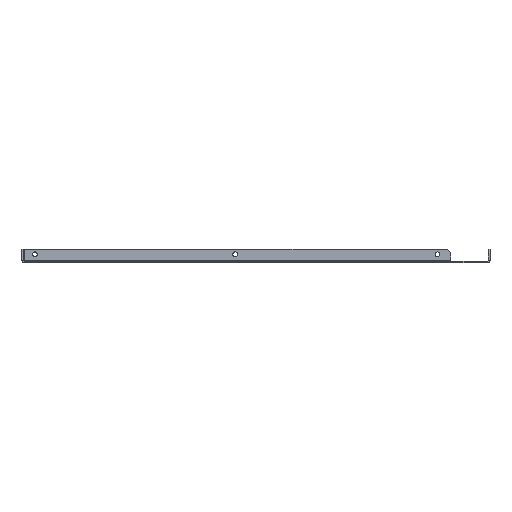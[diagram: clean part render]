
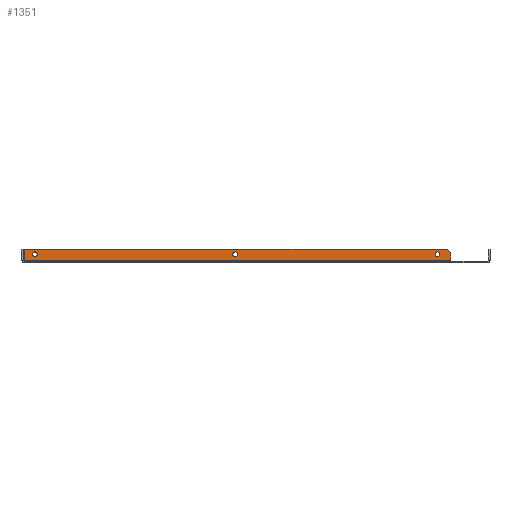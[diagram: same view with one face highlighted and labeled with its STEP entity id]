
A CAD part, left-side view. The second image highlights one B-rep face of the part: STEP entity #1351.
In plain terms, the highlighted planar face has unit normal (-1, 0, 0).
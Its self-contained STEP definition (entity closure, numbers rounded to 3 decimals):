
#306=CARTESIAN_POINT(' ',(-234.5,196.75,3.9));
#307=VERTEX_POINT(' ',#306);
#321=CARTESIAN_POINT(' ',(-234.5,196.75,6.));
#326=DIRECTION(' ',(-1.,0.,0.));
#331=DIRECTION(' ',(0.,0.,-1.));
#336=AXIS2_PLACEMENT_3D(' ',#321,#326,#331);
#341=CIRCLE('',#336,2.1);
#346=CARTESIAN_POINT(' ',(-234.5,196.75,8.1));
#347=VERTEX_POINT(' ',#346);
#351=EDGE_CURVE(' ',#307,#347,#341,.T.);
#891=CARTESIAN_POINT(' ',(-234.5,196.75,6.));
#896=DIRECTION(' ',(-1.,-0.,0.));
#901=DIRECTION(' ',(0.,0.,1.));
#906=AXIS2_PLACEMENT_3D(' ',#891,#896,#901);
#911=CIRCLE('',#906,2.1);
#916=EDGE_CURVE(' ',#347,#307,#911,.T.);
#941=DIRECTION(' ',(-1.,-0.,0.));
#946=CARTESIAN_POINT(' ',(-234.5,-173.25,10.5));
#951=DIRECTION(' ',(-0.,1.,0.));
#956=AXIS2_PLACEMENT_3D(' ',#946,#941,#951);
#961=PLANE('NONE',#956);
#966=CARTESIAN_POINT(' ',(-234.5,-173.25,7.5));
#971=DIRECTION(' ',(0.,0.,-1.));
#976=VECTOR(' ',#971,1.);
#981=LINE('',#966,#976);
#986=CARTESIAN_POINT(' ',(-234.5,-173.25,7.5));
#987=VERTEX_POINT(' ',#986);
#991=CARTESIAN_POINT(' ',(-234.5,-173.25,0.6));
#992=VERTEX_POINT(' ',#991);
#996=EDGE_CURVE(' ',#987,#992,#981,.T.);
#1001=ORIENTED_EDGE(' ',*,*,#996,.F.);
#1006=CARTESIAN_POINT(' ',(-234.5,-173.25,7.5));
#1011=DIRECTION(' ',(0.,0.707,0.707));
#1016=VECTOR(' ',#1011,1.);
#1021=LINE('',#1006,#1016);
#1026=CARTESIAN_POINT(' ',(-234.5,-170.25,10.5));
#1027=VERTEX_POINT(' ',#1026);
#1031=EDGE_CURVE(' ',#987,#1027,#1021,.T.);
#1036=ORIENTED_EDGE(' ',*,*,#1031,.T.);
#1041=CARTESIAN_POINT(' ',(-234.5,-170.25,10.5));
#1046=DIRECTION(' ',(0.,1.,0.));
#1051=VECTOR(' ',#1046,1.);
#1056=LINE('',#1041,#1051);
#1061=CARTESIAN_POINT(' ',(-234.5,206.043,10.5));
#1062=VERTEX_POINT(' ',#1061);
#1066=EDGE_CURVE(' ',#1027,#1062,#1056,.T.);
#1071=ORIENTED_EDGE(' ',*,*,#1066,.T.);
#1076=CARTESIAN_POINT(' ',(-234.5,206.043,0.6));
#1081=DIRECTION(' ',(0.,0.,1.));
#1086=VECTOR(' ',#1081,1.);
#1091=LINE('',#1076,#1086);
#1096=CARTESIAN_POINT(' ',(-234.5,206.043,0.6));
#1097=VERTEX_POINT(' ',#1096);
#1101=EDGE_CURVE(' ',#1097,#1062,#1091,.T.);
#1106=ORIENTED_EDGE(' ',*,*,#1101,.F.);
#1111=CARTESIAN_POINT(' ',(-234.5,-173.25,0.6));
#1116=DIRECTION(' ',(0.,1.,0.));
#1121=VECTOR(' ',#1116,1.);
#1126=LINE('',#1111,#1121);
#1131=EDGE_CURVE(' ',#992,#1097,#1126,.T.);
#1136=ORIENTED_EDGE(' ',*,*,#1131,.F.);
#1141=EDGE_LOOP(' ',(#1001,#1036,#1071,#1106,#1136));
#1146=FACE_OUTER_BOUND(' ',#1141,.T.);
#1151=ORIENTED_EDGE(' ',*,*,#916,.F.);
#1156=ORIENTED_EDGE(' ',*,*,#351,.F.);
#1161=EDGE_LOOP(' ',(#1151,#1156));
#1166=FACE_BOUND(' ',#1161,.T.);
#1171=CARTESIAN_POINT(' ',(-234.5,-161.5,6.));
#1176=DIRECTION(' ',(-1.,-0.,0.));
#1181=DIRECTION(' ',(0.,0.,1.));
#1186=AXIS2_PLACEMENT_3D(' ',#1171,#1176,#1181);
#1191=CIRCLE('',#1186,2.1);
#1196=CARTESIAN_POINT(' ',(-234.5,-161.5,8.1));
#1197=VERTEX_POINT(' ',#1196);
#1201=CARTESIAN_POINT(' ',(-234.5,-161.5,3.9));
#1202=VERTEX_POINT(' ',#1201);
#1206=EDGE_CURVE(' ',#1197,#1202,#1191,.T.);
#1211=ORIENTED_EDGE(' ',*,*,#1206,.F.);
#1216=CARTESIAN_POINT(' ',(-234.5,-161.5,6.));
#1221=DIRECTION(' ',(-1.,0.,0.));
#1226=DIRECTION(' ',(0.,0.,-1.));
#1231=AXIS2_PLACEMENT_3D(' ',#1216,#1221,#1226);
#1236=CIRCLE('',#1231,2.1);
#1241=EDGE_CURVE(' ',#1202,#1197,#1236,.T.);
#1246=ORIENTED_EDGE(' ',*,*,#1241,.F.);
#1251=EDGE_LOOP(' ',(#1211,#1246));
#1256=FACE_BOUND(' ',#1251,.T.);
#1261=CARTESIAN_POINT(' ',(-234.5,18.5,6.));
#1266=DIRECTION(' ',(-1.,0.,0.));
#1271=DIRECTION(' ',(0.,0.,1.));
#1276=AXIS2_PLACEMENT_3D(' ',#1261,#1266,#1271);
#1281=CIRCLE('',#1276,2.1);
#1286=CARTESIAN_POINT(' ',(-234.5,18.5,8.1));
#1287=VERTEX_POINT(' ',#1286);
#1291=CARTESIAN_POINT(' ',(-234.5,18.5,3.9));
#1292=VERTEX_POINT(' ',#1291);
#1296=EDGE_CURVE(' ',#1287,#1292,#1281,.T.);
#1301=ORIENTED_EDGE(' ',*,*,#1296,.F.);
#1306=CARTESIAN_POINT(' ',(-234.5,18.5,6.));
#1311=DIRECTION(' ',(-1.,0.,0.));
#1316=DIRECTION(' ',(0.,0.,-1.));
#1321=AXIS2_PLACEMENT_3D(' ',#1306,#1311,#1316);
#1326=CIRCLE('',#1321,2.1);
#1331=EDGE_CURVE(' ',#1292,#1287,#1326,.T.);
#1336=ORIENTED_EDGE(' ',*,*,#1331,.F.);
#1341=EDGE_LOOP(' ',(#1301,#1336));
#1346=FACE_BOUND(' ',#1341,.T.);
#1351=ADVANCED_FACE('NONE',(#1146,#1166,#1256,#1346),#961,.T.);
